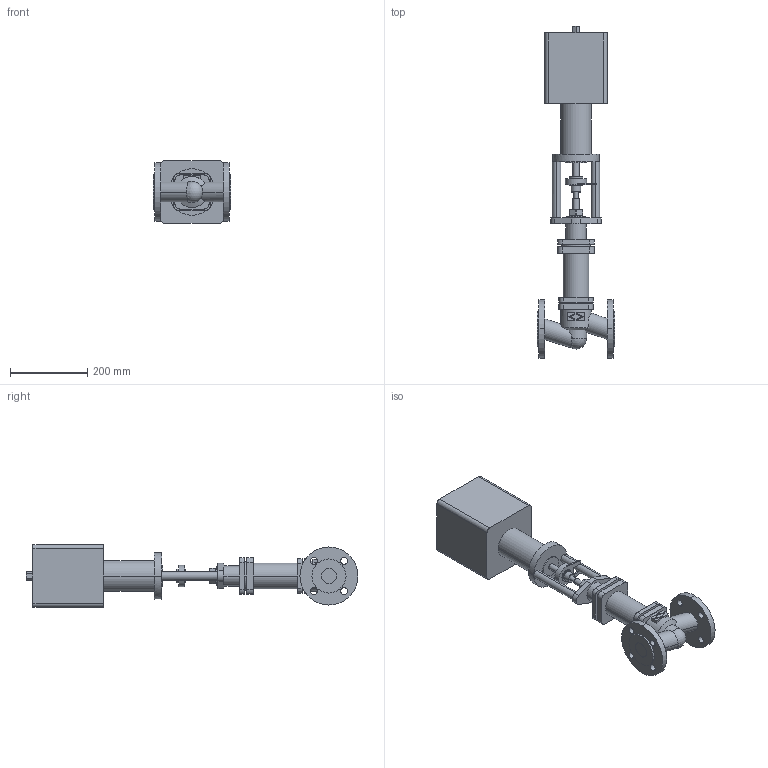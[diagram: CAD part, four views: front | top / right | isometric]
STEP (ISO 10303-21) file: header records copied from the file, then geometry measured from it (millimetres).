
FILE_DESCRIPTION( ( '' ), '1' );
FILE_NAME( 'F:/DE-SHS/TB/OR/04-Sonstiges/daten/files_3d/441-FR2.2/441-PN16-FR2_2/c000004549.stp', '2014-11-06T11:21:52', ( '' ), ( '' ), ' ', ' ', ' ' );
FILE_SCHEMA( ( 'CONFIG_CONTROL_DESIGN' ) );
Length unit declared in the file: millimetre
Products named in the file (2): 1; 2
Bounding box: 200 x 858 x 162 mm (x, y, z)
Volume: 8085054.5 mm3; surface area: 485842 mm2
Topology: 2 solids, 2 shells, 202 faces, 497 edges, 329 vertices
Faces by surface type: cylinder 102, plane 97, cone 2, sphere 1
Entity records: 6607 total; most frequent: CARTESIAN_POINT 1512, DIRECTION 1105, ORIENTED_EDGE 990, EDGE_CURVE 495, AXIS2_PLACEMENT_3D 420, VERTEX_POINT 329, LINE 265, VECTOR 265
